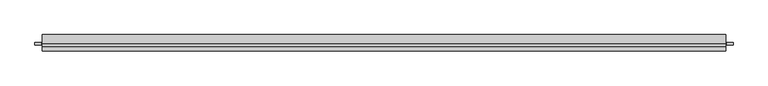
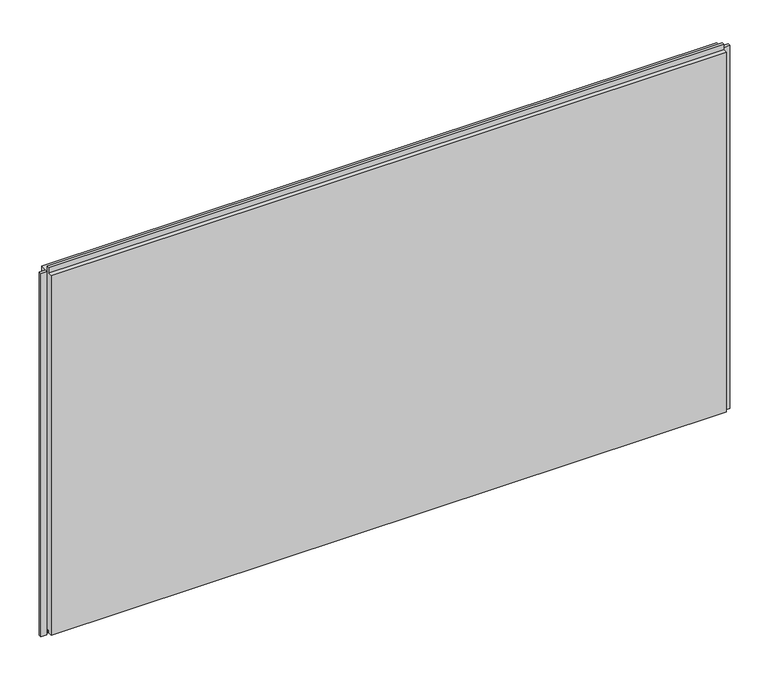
"""IFC4 building model written with IfcOpenShell, lengths in millimetres: plate geometry, Trimo_Qbiss Screen_Normal Panel-HORIZONTAL : HR - FB."""

import ifcopenshell
import ifcopenshell.guid

model = None  # the IFC model being written
_history = None  # IfcOwnerHistory: only IFC2X3 demands one
_inside = {}  # id of a spatial element -> (the spatial element, [elements in it])
_under = {}  # id of a project, library or spatial element -> (it, [spatial elements below it])
_declared = {}  # id of a project -> (the project, [libraries it declares])
_typed = {}  # id of a type object -> (the type object, [elements of that type])
_made_of = {}  # id of a material, layer set ... -> (it, [elements and type objects made of it])


def new_model(schema):
    """Start an empty IFC model of exactly this schema.

    Asked for "IFC4X3", IfcOpenShell would pick the latest addendum, in which some entities
    have other attributes; the version numbers below select the first issue.
    IFC2X3 requires an IfcOwnerHistory on every rooted entity: one is made here for all.
    """
    global model, _history
    if schema == "IFC4X3":
        model = ifcopenshell.file(schema_version=(4, 3, 0, 0))
    else:
        model = ifcopenshell.file(schema=schema)
    _inside.clear()
    _under.clear()
    _declared.clear()
    _typed.clear()
    _made_of.clear()
    _history = None
    if model.schema == "IFC2X3":
        org = make("IfcOrganization", Name="unknown")
        user = make(
            "IfcPersonAndOrganization",
            ThePerson=make("IfcPerson", FamilyName="unknown"),
            TheOrganization=org,
        )
        app = make(
            "IfcApplication",
            ApplicationDeveloper=org,
            Version="unknown",
            ApplicationFullName="unknown",
            ApplicationIdentifier="unknown",
        )
        _history = make(
            "IfcOwnerHistory",
            OwningUser=user,
            OwningApplication=app,
            ChangeAction="ADDED",
            CreationDate=0,
        )
    return model


def make(cls, **values):
    """One entity of the class cls with the attributes given. An attribute that is None is left unset."""
    return model.create_entity(
        cls, **{name: value for name, value in values.items() if value is not None}
    )


def rooted(cls, **values):
    """An entity with a GlobalId (a new one), such as an element, a storey or a relation."""
    return make(cls, GlobalId=ifcopenshell.guid.new(), OwnerHistory=_history, **values)


def si_unit(unit_type, name, prefix=None):
    """IfcSIUnit, for example si_unit("LENGTHUNIT", "METRE", prefix="MILLI")."""
    return make("IfcSIUnit", UnitType=unit_type, Prefix=prefix, Name=name)


def assignment(units):
    """IfcUnitAssignment: the units of a project."""
    return None if units is None else make("IfcUnitAssignment", Units=units)


def point(xyz):
    """IfcCartesianPoint."""
    return None if xyz is None else make("IfcCartesianPoint", Coordinates=xyz)


def direction(xyz):
    """IfcDirection."""
    return None if xyz is None else make("IfcDirection", DirectionRatios=xyz)


def frame(location, z_axis=None, x_axis=None):
    """IfcAxis2Placement3D, a coordinate frame: its origin and axes. An axis left out is left unset."""
    return make(
        "IfcAxis2Placement3D",
        Location=point(location),
        Axis=direction(z_axis),
        RefDirection=direction(x_axis),
    )


def origin():
    """The frame at (0, 0, 0) with its axes left unset."""
    return frame((0.0, 0.0, 0.0))


def place(relative_to, where):
    """IfcLocalPlacement: puts the frame where relative to a parent placement (None: the world)."""
    return make(
        "IfcLocalPlacement", PlacementRelTo=relative_to, RelativePlacement=where
    )


def context(
    kind, dimensions, precision=None, world=None, true_north=None, identifier=None
):
    """IfcGeometricRepresentationContext, for example the 3D "Model" context."""
    return make(
        "IfcGeometricRepresentationContext",
        ContextIdentifier=identifier,
        ContextType=kind,
        CoordinateSpaceDimension=dimensions,
        Precision=precision,
        WorldCoordinateSystem=world,
        TrueNorth=true_north,
    )


def project(units=None, contexts=None):
    """IfcProject with its units and contexts."""
    return rooted(
        "IfcProject",
        Name="project",
        RepresentationContexts=contexts,
        UnitsInContext=assignment(units),
    )


def spatial(cls, under=None, at=None, **own):
    """A site, building, storey or space (cls), placed at a placement, below another one or the project."""
    s = rooted(cls, ObjectPlacement=at, **own)
    if under is not None:
        _under.setdefault(under.id(), (under, []))[1].append(s)
    return s


def polyline(points):
    """IfcPolyline through the points."""
    return make("IfcPolyline", Points=[point(p) for p in points])


def outline(outer, holes=None, kind="AREA"):
    """IfcArbitraryClosedProfileDef: a profile drawn as a closed curve; with holes, ...WithVoids."""
    if holes is None:
        return make("IfcArbitraryClosedProfileDef", ProfileType=kind, OuterCurve=outer)
    return make(
        "IfcArbitraryProfileDefWithVoids",
        ProfileType=kind,
        OuterCurve=outer,
        InnerCurves=holes,
    )


def extrude(swept, where, along, depth):
    """IfcExtrudedAreaSolid: the profile swept, set in the frame where, extruded along a direction by depth."""
    return make(
        "IfcExtrudedAreaSolid",
        SweptArea=swept,
        Position=where,
        ExtrudedDirection=direction(along),
        Depth=depth,
    )


def shape(context_of_items, identifier, shape_type, items):
    """IfcShapeRepresentation: the items that make up one representation, for example the "Body"."""
    return make(
        "IfcShapeRepresentation",
        ContextOfItems=context_of_items,
        RepresentationIdentifier=identifier,
        RepresentationType=shape_type,
        Items=items,
    )


def source(mapping_origin, context_of_items, identifier, shape_type, items):
    """IfcRepresentationMap: a shape defined once, which mapped items show again and again."""
    return make(
        "IfcRepresentationMap",
        MappingOrigin=mapping_origin,
        MappedRepresentation=shape(context_of_items, identifier, shape_type, items),
    )


def transform(
    local_origin,
    x_axis=None,
    y_axis=None,
    z_axis=None,
    scale=None,
    scale2=None,
    scale3=None,
    uniform=True,
):
    """IfcCartesianTransformationOperator3D, or its non-uniform kind. x_axis, y_axis, z_axis: its Axis1, 2, 3."""
    if uniform:
        return make(
            "IfcCartesianTransformationOperator3D",
            Axis1=direction(x_axis),
            Axis2=direction(y_axis),
            LocalOrigin=point(local_origin),
            Scale=scale,
            Axis3=direction(z_axis),
        )
    return make(
        "IfcCartesianTransformationOperator3DnonUniform",
        Axis1=direction(x_axis),
        Axis2=direction(y_axis),
        LocalOrigin=point(local_origin),
        Scale=scale,
        Axis3=direction(z_axis),
        Scale2=scale2,
        Scale3=scale3,
    )


def mapped(mapping_source, mapping_target):
    """IfcMappedItem: shows the shape of a source again, moved by a transform."""
    return make(
        "IfcMappedItem", MappingSource=mapping_source, MappingTarget=mapping_target
    )


def made_of(thing, what):
    """Note that an element or type object is made of a material, layer set ...; save() writes the relation."""
    if what is not None:
        _made_of.setdefault(what.id(), (what, []))[1].append(thing)
    return thing


def element(
    cls,
    number,
    at=None,
    inside=None,
    cuts=None,
    type_object=None,
    material=None,
    context=None,
    identifier="Body",
    shape_type=None,
    held_by="IfcProductDefinitionShape",
    body=None,
    shapes=None,
    **own,
):
    """One element of the class cls, such as IfcWall. Its Tag is "e" and its number.

    at: its placement. inside: the storey or other place that contains it. cuts: it is an
    opening in that element (IfcRelVoidsElement). A single representation is given by context,
    identifier, shape_type and body (its items); several are given by shapes. held_by: the class
    of the entity that holds the representations. save() writes the other relations.
    """
    e = rooted(cls, Tag="e%d" % number, ObjectPlacement=at, **own)
    if body is not None:
        shapes = [shape(context, identifier, shape_type, body)]
    if shapes is not None:
        e.Representation = make(held_by, Representations=shapes)
    if inside is not None:
        _inside.setdefault(inside.id(), (inside, []))[1].append(e)
    if cuts is not None:
        rooted(
            "IfcRelVoidsElement", RelatingBuildingElement=cuts, RelatedOpeningElement=e
        )
    if type_object is not None:
        _typed.setdefault(type_object.id(), (type_object, []))[1].append(e)
    return made_of(e, material)


def aggregate(whole, parts):
    """IfcRelAggregates: a whole, such as a stair, and the parts it consists of."""
    return rooted("IfcRelAggregates", RelatingObject=whole, RelatedObjects=parts)


def save(model, path):
    """Write the relations noted so far, then the file.

    IfcRelAggregates (storeys below a building ...), IfcRelContainedInSpatialStructure (elements
    in a storey), IfcRelDefinesByType, IfcRelAssociatesMaterial and IfcRelDeclares: one each for
    every whole, place, type object, material and project.
    """
    for whole, parts in _under.values():
        aggregate(whole, parts)
    for where, things in _inside.values():
        rooted(
            "IfcRelContainedInSpatialStructure",
            RelatedElements=things,
            RelatingStructure=where,
        )
    for kind, things in _typed.values():
        rooted("IfcRelDefinesByType", RelatedObjects=things, RelatingType=kind)
    for what, things in _made_of.values():
        rooted("IfcRelAssociatesMaterial", RelatedObjects=things, RelatingMaterial=what)
    for by, libraries in _declared.values():
        rooted("IfcRelDeclares", RelatingContext=by, RelatedDefinitions=libraries)
    model.write(path)


def plate_7be3f5e4(model_context):
    return source(origin(), model_context, "Body", "SweptSolid", [
        extrude(outline(polyline([(-1056.75, 121.5978162), (-1056.75, 112.8978162), (-1075.75, 112.8978162), (-1075.75, 121.5978162), (-1056.75, 121.5978162)])), frame((0.0, 0.0, -1.0), z_axis=(0.0, 0.0, 1.0), x_axis=(1.0, 0.0, 0.0)), (0.0, 0.0, 1.0), 1200.0),
        extrude(outline(polyline([(1056.75, 112.8978162), (1056.75, 121.5978162), (1075.75, 121.5978162), (1075.75, 112.8978162), (1056.75, 112.8978162)])), frame((0.0, 0.0, -1.0), z_axis=(0.0, 0.0, 1.0), x_axis=(1.0, 0.0, 0.0)), (0.0, 0.0, 1.0), 1200.0),
        extrude(outline(polyline([(116.0, 1196.0), (145.0, 1196.0), (145.0, 0.0), (117.0, 0.0), (117.0, 15.5), (107.0, 15.5), (107.0, 7.0), (95.0, 7.0), (95.0, 1196.0), (108.0, 1196.0), (108.0, 1214.5), (116.0, 1214.5), (116.0, 1196.0)])), frame((-1053.75, 0.0, 0.0), z_axis=(1.0, 0.0, 0.0), x_axis=(0.0, 1.0, 0.0)), (0.0, 0.0, 1.0), 2107.5),
    ])


if __name__ == "__main__":
    model = new_model("IFC4")
    model_context = context("Model", 3, world=origin())
    ifc_project = project(units=[si_unit("LENGTHUNIT", "METRE", prefix="MILLI")], contexts=[model_context])
    site = spatial("IfcSite", under=ifc_project)
    building = spatial("IfcBuilding", under=site)
    placement = place(None, origin())
    plate_shape = plate_7be3f5e4(model_context)
    element("IfcPlate", 1, ObjectType="Trimo_Qbiss Screen_Normal Panel-HORIZONTAL : HR - FB", at=placement, inside=building, context=model_context, shape_type="MappedRepresentation", body=[
        mapped(plate_shape, transform((0.0, 0.0, 0.0), x_axis=(1.0, 0.0, 0.0), y_axis=(0.0, 1.0, 0.0), z_axis=(0.0, 0.0, 1.0))),
    ])
    save(model, "model.ifc")
